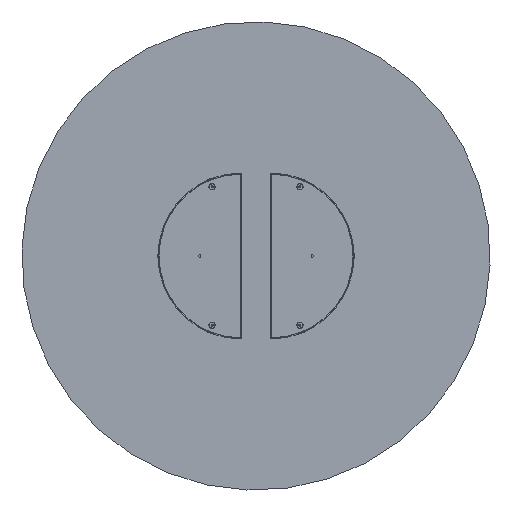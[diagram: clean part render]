
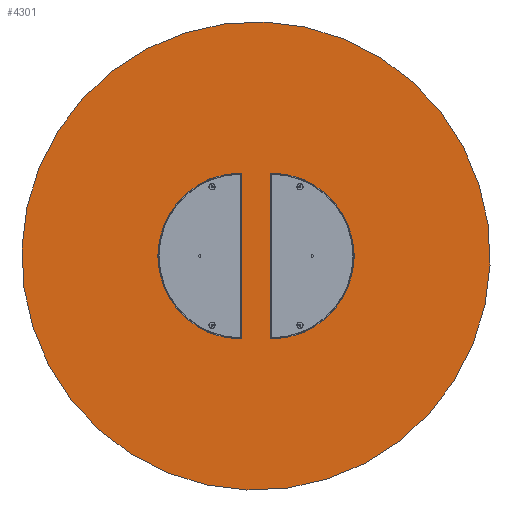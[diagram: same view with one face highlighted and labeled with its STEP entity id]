
A CAD part, front view. The second image highlights one B-rep face of the part: STEP entity #4301.
In plain terms, the highlighted planar face has unit normal (0, -1, 0).
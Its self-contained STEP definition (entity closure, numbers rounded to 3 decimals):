
#39 = AXIS2_PLACEMENT_3D ( 'NONE', #526, #6599, #1917 ) ;
#240 = DIRECTION ( 'NONE',  ( 0., -1., 0. ) ) ;
#526 = CARTESIAN_POINT ( 'NONE',  ( 0., 0., 0. ) ) ;
#575 = CIRCLE ( 'NONE', #6757, 650. ) ;
#761 = DIRECTION ( 'NONE',  ( 0., -1., 0. ) ) ;
#1164 = VERTEX_POINT ( 'NONE', #1408 ) ;
#1408 = CARTESIAN_POINT ( 'NONE',  ( 0., 0., -650. ) ) ;
#1902 = EDGE_LOOP ( 'NONE', ( #6807, #7773 ) ) ;
#1917 = DIRECTION ( 'NONE',  ( 0., 0., -1. ) ) ;
#2010 = CIRCLE ( 'NONE', #39, 650. ) ;
#2664 = EDGE_CURVE ( 'NONE', #1164, #4533, #575, .T. ) ;
#3032 = CARTESIAN_POINT ( 'NONE',  ( 0., 0., 650. ) ) ;
#3331 = DIRECTION ( 'NONE',  ( 0., 0., -1. ) ) ;
#4301 = ADVANCED_FACE ( 'NONE', ( #7563 ), #8229, .T. ) ;
#4437 = CARTESIAN_POINT ( 'NONE',  ( 0., 0., 0. ) ) ;
#4533 = VERTEX_POINT ( 'NONE', #3032 ) ;
#5613 = DIRECTION ( 'NONE',  ( 0., 0., -1. ) ) ;
#6599 = DIRECTION ( 'NONE',  ( 0., -1., 0. ) ) ;
#6757 = AXIS2_PLACEMENT_3D ( 'NONE', #4437, #240, #5613 ) ;
#6780 = AXIS2_PLACEMENT_3D ( 'NONE', #6827, #761, #3331 ) ;
#6807 = ORIENTED_EDGE ( 'NONE', *, *, #2664, .T. ) ;
#6827 = CARTESIAN_POINT ( 'NONE',  ( 0., 0., 0. ) ) ;
#7563 = FACE_OUTER_BOUND ( 'NONE', #1902, .T. ) ;
#7700 = EDGE_CURVE ( 'NONE', #4533, #1164, #2010, .T. ) ;
#7773 = ORIENTED_EDGE ( 'NONE', *, *, #7700, .T. ) ;
#8229 = PLANE ( 'NONE',  #6780 ) ;
